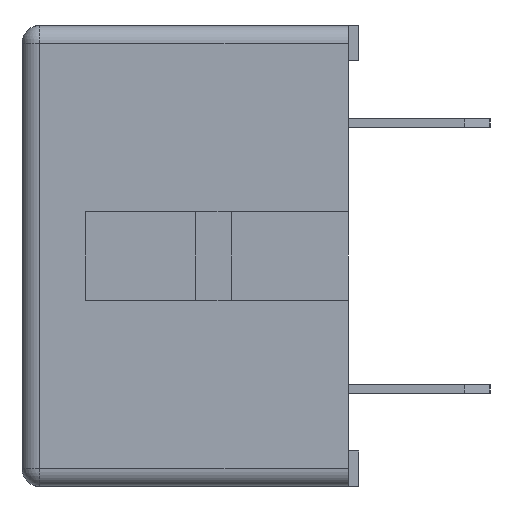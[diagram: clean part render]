
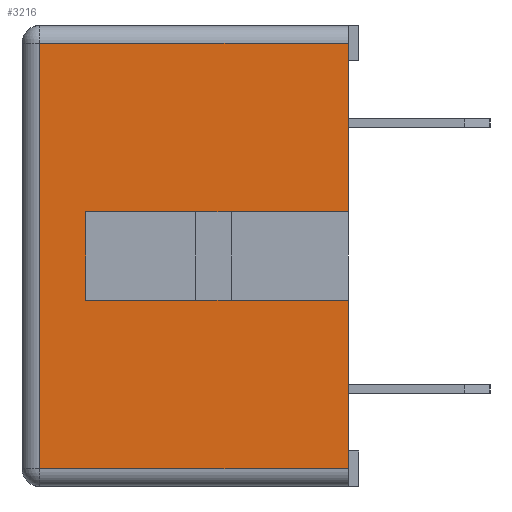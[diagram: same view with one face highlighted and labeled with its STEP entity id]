
A CAD part, left-side view. The second image highlights one B-rep face of the part: STEP entity #3216.
In plain terms, the highlighted planar face has unit normal (-1, 0, 0).
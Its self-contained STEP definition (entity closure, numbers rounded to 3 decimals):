
#174=FACE_OUTER_BOUND('',#359,.T.);
#359=EDGE_LOOP('',(#2338,#2339,#2340,#2341,#2342,#2343,#2344,#2345));
#608=LINE('',#4632,#1038);
#614=LINE('',#4658,#1044);
#655=LINE('',#4741,#1085);
#657=LINE('',#4747,#1087);
#658=LINE('',#4749,#1088);
#659=LINE('',#4751,#1089);
#660=LINE('',#4753,#1090);
#661=LINE('',#4754,#1091);
#1038=VECTOR('',#3744,10.);
#1044=VECTOR('',#3774,10.);
#1085=VECTOR('',#3847,10.);
#1087=VECTOR('',#3855,10.);
#1088=VECTOR('',#3856,10.);
#1089=VECTOR('',#3857,10.);
#1090=VECTOR('',#3858,10.);
#1091=VECTOR('',#3859,10.);
#1451=VERTEX_POINT('',#4625);
#1454=VERTEX_POINT('',#4630);
#1462=VERTEX_POINT('',#4656);
#1488=VERTEX_POINT('',#4739);
#1489=VERTEX_POINT('',#4746);
#1490=VERTEX_POINT('',#4748);
#1491=VERTEX_POINT('',#4750);
#1492=VERTEX_POINT('',#4752);
#1768=EDGE_CURVE('',#1454,#1451,#608,.T.);
#1781=EDGE_CURVE('',#1462,#1454,#614,.T.);
#1830=EDGE_CURVE('',#1488,#1462,#655,.T.);
#1833=EDGE_CURVE('',#1488,#1489,#657,.T.);
#1834=EDGE_CURVE('',#1489,#1490,#658,.T.);
#1835=EDGE_CURVE('',#1490,#1491,#659,.T.);
#1836=EDGE_CURVE('',#1491,#1492,#660,.T.);
#1837=EDGE_CURVE('',#1492,#1451,#661,.T.);
#2338=ORIENTED_EDGE('',*,*,#1768,.F.);
#2339=ORIENTED_EDGE('',*,*,#1781,.F.);
#2340=ORIENTED_EDGE('',*,*,#1830,.F.);
#2341=ORIENTED_EDGE('',*,*,#1833,.T.);
#2342=ORIENTED_EDGE('',*,*,#1834,.T.);
#2343=ORIENTED_EDGE('',*,*,#1835,.T.);
#2344=ORIENTED_EDGE('',*,*,#1836,.T.);
#2345=ORIENTED_EDGE('',*,*,#1837,.T.);
#3044=PLANE('',#3428);
#3216=ADVANCED_FACE('',(#174),#3044,.T.);
#3428=AXIS2_PLACEMENT_3D('',#4745,#3853,#3854);
#3744=DIRECTION('',(0.,-1.,0.));
#3774=DIRECTION('',(0.,0.,1.));
#3847=DIRECTION('',(0.,1.,0.));
#3853=DIRECTION('center_axis',(-1.,0.,0.));
#3854=DIRECTION('ref_axis',(0.,0.,1.));
#3855=DIRECTION('',(0.,0.,1.));
#3856=DIRECTION('',(0.,1.,0.));
#3857=DIRECTION('',(0.,0.,1.));
#3858=DIRECTION('',(0.,-1.,0.));
#3859=DIRECTION('',(0.,0.,1.));
#4625=CARTESIAN_POINT('',(0.,-9.2,12.5));
#4630=CARTESIAN_POINT('',(0.,-0.5,12.5));
#4632=CARTESIAN_POINT('',(0.,-6.802,12.5));
#4656=CARTESIAN_POINT('',(0.,-0.5,0.5));
#4658=CARTESIAN_POINT('',(0.,-0.5,0.));
#4739=CARTESIAN_POINT('',(0.,-9.2,0.5));
#4741=CARTESIAN_POINT('',(0.,-6.802,0.5));
#4745=CARTESIAN_POINT('Origin',(0.,-9.2,0.));
#4746=CARTESIAN_POINT('',(0.,-9.2,5.25));
#4747=CARTESIAN_POINT('',(0.,-9.2,0.));
#4748=CARTESIAN_POINT('',(0.,-1.8,5.25));
#4749=CARTESIAN_POINT('',(0.,-5.5,5.25));
#4750=CARTESIAN_POINT('',(0.,-1.8,7.75));
#4751=CARTESIAN_POINT('',(0.,-1.8,3.875));
#4752=CARTESIAN_POINT('',(0.,-9.2,7.75));
#4753=CARTESIAN_POINT('',(0.,-9.2,7.75));
#4754=CARTESIAN_POINT('',(0.,-9.2,0.));
